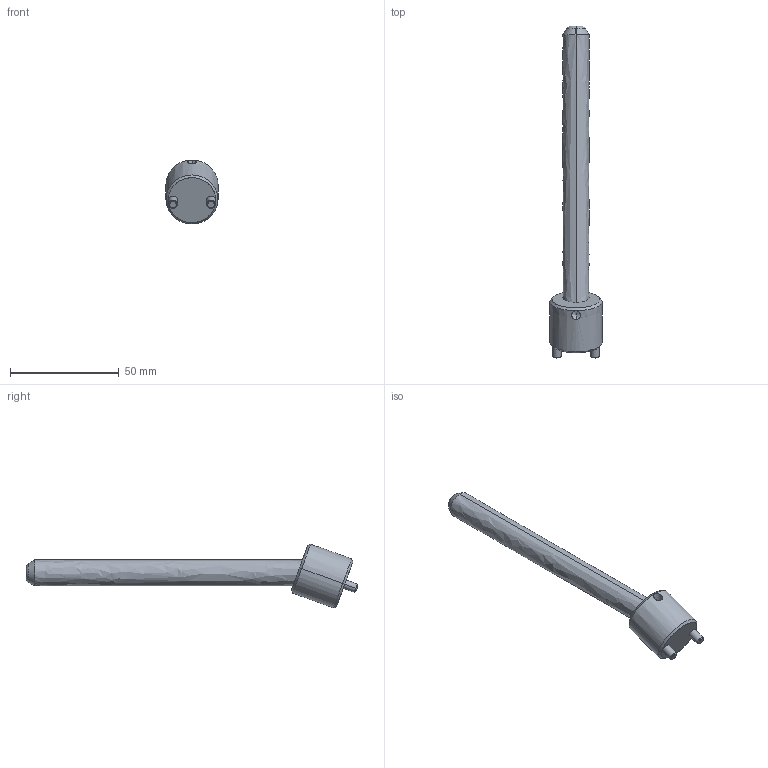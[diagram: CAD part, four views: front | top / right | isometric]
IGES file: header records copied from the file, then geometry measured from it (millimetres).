
Start section: START RECORD GO HERE.
Global section: file name: CI2012125.igs; native system: DASSAULT SYSTEMES CATIA V5 R20 - www.3ds.com; preprocessor: CATIA Version 5 Release 20 ; author: r.borello; organization: CFTORINO; date: 20190621.121714; units: millimetre
Bounding box: 24 x 152.68 x 29.39 mm (x, y, z)
Surface area: 8899.2 mm2 (no closed solid volume)
Topology: 0 solids, 0 shells, 39 faces, 162 edges, 160 vertices
Faces by surface type: revolution 32, plane 7
